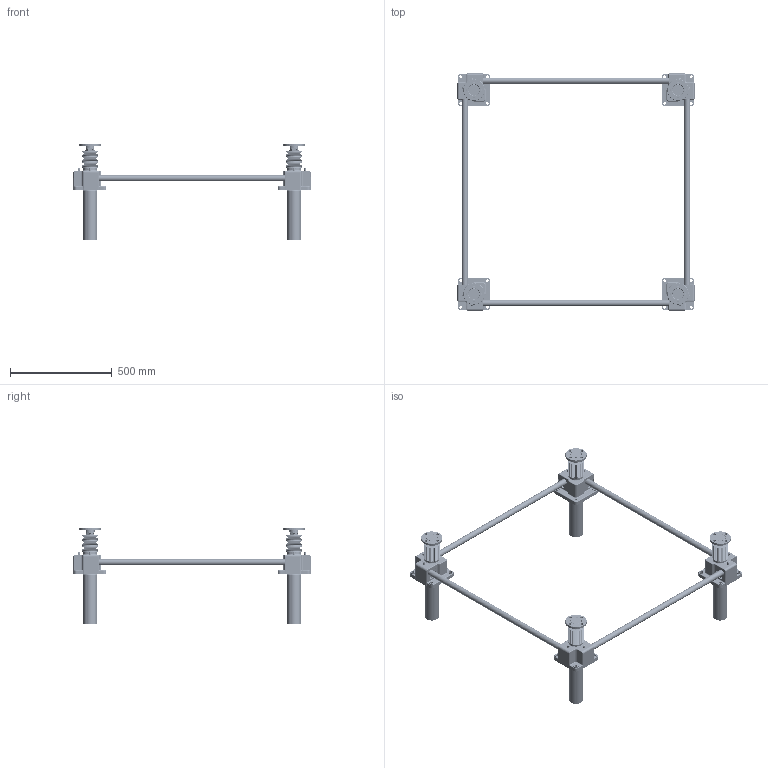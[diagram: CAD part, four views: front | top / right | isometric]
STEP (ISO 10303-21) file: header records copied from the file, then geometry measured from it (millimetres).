
FILE_DESCRIPTION(('STEP AP203'),'1');
FILE_NAME('SP5000FCJ-1000x1000-200ST_CAP.stp','2016-08-09T08:47:10',(' '),(' '),'Spatial InterOp 3D',' ',' ');
FILE_SCHEMA(('CONFIG_CONTROL_DESIGN'));
Length unit declared in the file: millimetre
Products named in the file (113): SP5000FCJ-1000x1000-200ST_CAP; Rack Gear(SP-5000FC); Flange.1-Part; Flange.1; Joint.1; Nut.1; Flange.2-Part; Flange.2; Joint.2; Nut.2; Flange.3-Part; Flange.3; Joint.3; Nut.3; Flange.4-Part; Flange.4; Joint.4; Nut.4; Bellow(SP-5000); Body.1-Part; Nipple; Du Bush; #3119; #3136; Pinion Gear; SnapRing-61Pie; SnapRing-65Pie; Gear Box.1(NSP-5000); RJ05-4SCJ-610X600-100ST_CAP; LABEL-B.1; ___; 파트18; __; Body.2-Part; #3438; #3455; Gear Box.2(NSP-5000); Body.3-Part; #3757; #3774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
Assembly tree (120 placements, depth 6):
  SP5000FCJ-1000x1000-200ST_CAP
    Rack Gear(SP-5000FC)  x4
    Flange.1-Part
      Flange.1
      Joint.1
      Nut.1
    Flange.2-Part
      Flange.2
      Joint.2
      Nut.2
    Flange.3-Part
      Flange.3
      Joint.3
      Nut.3
    Flange.4-Part
      Flange.4
      Joint.4
      Nut.4
    Bellow(SP-5000)  x4
    Body.1-Part
      Nipple
      Nipple
      Du Bush
      Du Bush
      #3119
      #3136
      Pinion Gear
      Pinion Gear
      SnapRing-61Pie
      SnapRing-61Pie
      SnapRing-65Pie
      SnapRing-65Pie
      Gear Box.1(NSP-5000)
      __
        ___
          RJ05-4SCJ-610X600-100ST_CAP
            LABEL-B.1
          파트18
    Body.2-Part
      Nipple
      Nipple
      Du Bush
      Du Bush
      #3438
      #3455
      Pinion Gear
      Pinion Gear
      SnapRing-61Pie
      SnapRing-61Pie
      SnapRing-65Pie
      SnapRing-65Pie
      Gear Box.2(NSP-5000)
      __
        ___
          RJ05-4SCJ-610X600-100ST_CAP
            LABEL-B.1
          파트18
    Body.3-Part
      Nipple
      Nipple
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Bounding box: 1164.44 x 1164.44 x 475 mm (x, y, z)
Volume: 11391320.8 mm3; surface area: 3020351.7 mm2
Topology: 144 solids, 144 shells, 12648 faces, 34582 edges, 22402 vertices
Faces by surface type: plane 9520, cylinder 1484, cone 756, torus 312, extrusion 272, sphere 248, bspline 40, revolution 16
Full cylindrical faces by diameter (mm): 3.42 x16, 3.642 x16, 3.7 x8, 5.6 x8, 8 x8, 9.886 x8, 14 x32, 24 x8, 25 x16, 28 x4, 30 x20, 32 x4, 34 x8, 39.2 x16, 41 x16, 44 x4, 45 x72, 50 x4, 54 x4, 54.4 x16, 55 x20, 58 x8, 60 x12, 61 x8, 62 x16, 62.4 x8, 63 x12, 65 x8, 66 x12, 70 x12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
Entity records: 380878 total; most frequent: CARTESIAN_POINT 83110, ORIENTED_EDGE 62324, DIRECTION 56364, EDGE_CURVE 31162, VECTOR 25680, LINE 25408, VERTEX_POINT 20734, AXIS2_PLACEMENT_3D 15334
